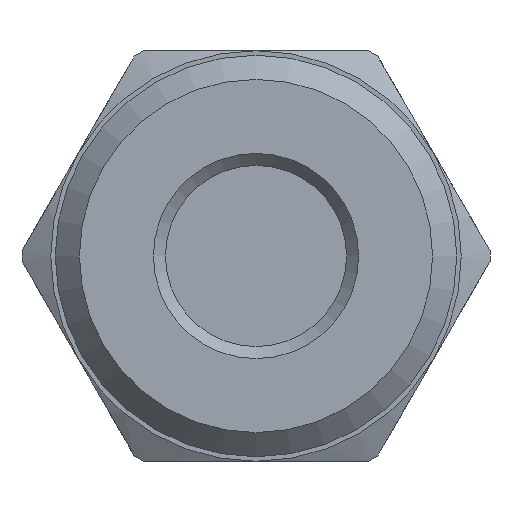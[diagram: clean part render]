
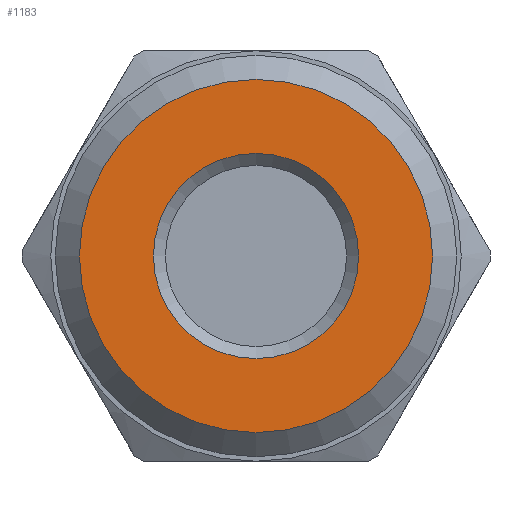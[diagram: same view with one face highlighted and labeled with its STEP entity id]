
A CAD part, left-side view. The second image highlights one B-rep face of the part: STEP entity #1183.
In plain terms, the highlighted planar face has unit normal (-1, 0, 0).
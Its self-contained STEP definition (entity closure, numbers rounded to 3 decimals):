
#16=FACE_BOUND('',#228,.T.);
#80=CIRCLE('',#1316,8.5);
#83=CIRCLE('',#1320,14.625);
#159=FACE_OUTER_BOUND('',#227,.T.);
#227=EDGE_LOOP('',(#989));
#228=EDGE_LOOP('',(#990));
#534=VERTEX_POINT('',#2089);
#537=VERTEX_POINT('',#2097);
#703=EDGE_CURVE('',#534,#534,#80,.T.);
#707=EDGE_CURVE('',#537,#537,#83,.T.);
#989=ORIENTED_EDGE('',*,*,#707,.F.);
#990=ORIENTED_EDGE('',*,*,#703,.F.);
#1123=PLANE('',#1319);
#1183=ADVANCED_FACE('',(#159,#16),#1123,.T.);
#1316=AXIS2_PLACEMENT_3D('',#2090,#1597,#1598);
#1319=AXIS2_PLACEMENT_3D('',#2096,#1604,#1605);
#1320=AXIS2_PLACEMENT_3D('',#2098,#1606,#1607);
#1597=DIRECTION('center_axis',(-1.,0.,0.));
#1598=DIRECTION('ref_axis',(0.,-1.,0.));
#1604=DIRECTION('center_axis',(-1.,0.,0.));
#1605=DIRECTION('ref_axis',(0.,0.,1.));
#1606=DIRECTION('center_axis',(1.,0.,0.));
#1607=DIRECTION('ref_axis',(0.,-1.,0.));
#2089=CARTESIAN_POINT('',(-44.,8.5,0.));
#2090=CARTESIAN_POINT('Origin',(-44.,0.,0.));
#2096=CARTESIAN_POINT('Origin',(-44.,16.625,0.));
#2097=CARTESIAN_POINT('',(-44.,14.625,0.));
#2098=CARTESIAN_POINT('Origin',(-44.,0.,0.));
